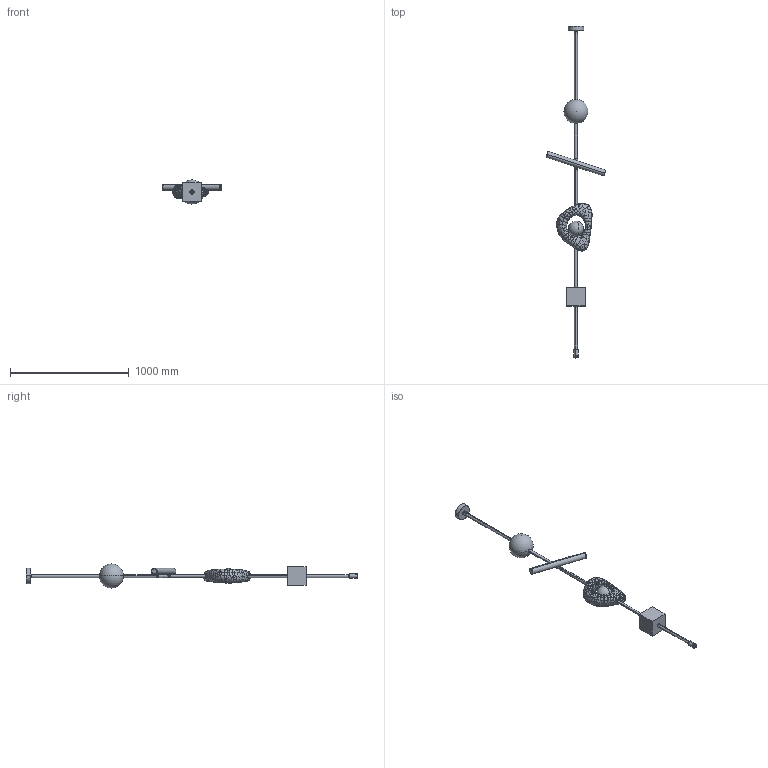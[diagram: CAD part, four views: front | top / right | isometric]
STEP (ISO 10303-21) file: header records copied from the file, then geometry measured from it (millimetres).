
FILE_DESCRIPTION (( 'STEP AP214' ), '1' );
FILE_NAME ('Anna Karlin - Form Light.STEP', '2026-05-05T19:23:43', ( '' ), ( '' ), 'SwSTEP 2.0', 'SolidWorks 2023', '' );
FILE_SCHEMA (( 'AUTOMOTIVE_DESIGN' ));
Length unit declared in the file: inch
Products named in the file (27): tube mate cap; LS-FootCap-V2; FormRev-LED-Mount-Standoff-2; G4 threaded mount - Rev 1; LS-FootGroundScrew-V2; FormRev-Collar-V2; tube cap v2; FormRev-UniversalBar-V1; 5IN.GLOBE; tube mount - Rev 4; Copy of stone globe^Form Light - Rev 2; FormRev-LED-Mount-Standoff; 8950K811 - Tube 3 - 13 (standard)^Form Light - Rev 2; tension base; stone cube - final; TOTEM.FORM.FINAL-3-alt; 8950K811 - Tube 4 - Varies^Form Light - Rev 2; CAS44ST_1" Slip; Anna Karlin - Form Light; FormRev-mountCoupling-V2; 8950K811 - Tube 1 - 17.25 (standard) (UNLESS OAH BELOW 96in)^Form Light - Rev 2; 8950K811 - Tube 2 - 16 (standard)^Form Light - Rev 2; LS-FootEndcap-V1; Light Tube Module^Form Light - Rev 2; tube lens; Light Globe Module^Form Light - Rev 2; Bronze Center^Form Light - Rev 2
Assembly tree (28 placements, depth 3):
  Anna Karlin - Form Light
    8950K811 - Tube 1 - 17.25 (standard) (UNLESS OAH BELOW 96in)^Form Light - Rev 2
    8950K811 - Tube 2 - 16 (standard)^Form Light - Rev 2
    8950K811 - Tube 3 - 13 (standard)^Form Light - Rev 2  x2
    8950K811 - Tube 4 - Varies^Form Light - Rev 2
    Light Tube Module^Form Light - Rev 2
      tube cap v2  x2
      tube lens
      tube mount - Rev 4
      FormRev-LED-Mount-Standoff
      FormRev-LED-Mount-Standoff-2
    Light Globe Module^Form Light - Rev 2
      G4 threaded mount - Rev 1
      5IN.GLOBE
    Bronze Center^Form Light - Rev 2
      TOTEM.FORM.FINAL-3-alt
    Copy of stone globe^Form Light - Rev 2
    stone cube - final
    tube mate cap
    tension base
    FormRev-UniversalBar-V1
    FormRev-Collar-V2
    CAS44ST_1" Slip
    FormRev-mountCoupling-V2
    LS-FootEndcap-V1
    LS-FootGroundScrew-V2
    LS-FootCap-V2
Bounding box: 503.5 x 2794.12 x 202.85 mm (x, y, z)
Volume: 10004631.6 mm3; surface area: 1428583.9 mm2
Topology: 25 solids, 25 shells, 1451 faces, 3235 edges, 1843 vertices
Faces by surface type: bspline 894, cylinder 339, plane 113, cone 91, torus 8, sphere 6
Entity records: 187490 total; most frequent: CARTESIAN_POINT 162071, ORIENTED_EDGE 6246, EDGE_CURVE 3123, DIRECTION 2794, B_SPLINE_CURVE_WITH_KNOTS 1956, VERTEX_POINT 1774, EDGE_LOOP 1535, FACE_OUTER_BOUND 1411
